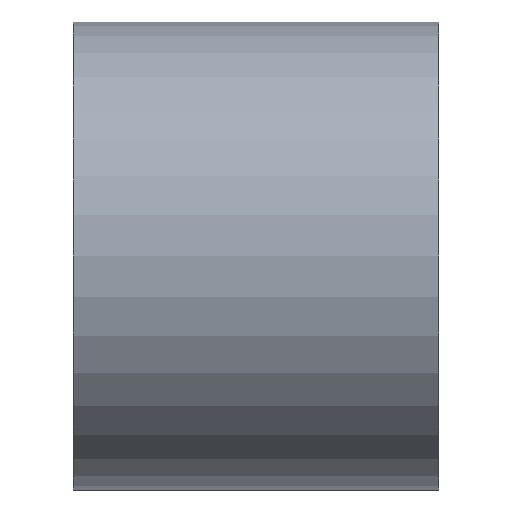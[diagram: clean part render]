
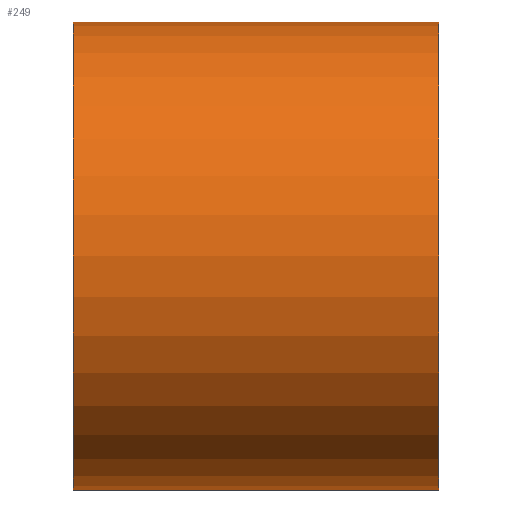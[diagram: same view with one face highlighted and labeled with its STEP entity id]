
A CAD part, front view. The second image highlights one B-rep face of the part: STEP entity #249.
In plain terms, the highlighted cylindrical face has radius 70.5 mm (diameter 141 mm), a partial arc.
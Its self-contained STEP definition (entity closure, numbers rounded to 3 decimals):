
#40 = ORIENTED_EDGE ( 'NONE', *, *, #288, .T. ) ;
#57 = VERTEX_POINT ( 'NONE', #769 ) ;
#172 = VERTEX_POINT ( 'NONE', #691 ) ;
#176 = ORIENTED_EDGE ( 'NONE', *, *, #195, .F. ) ;
#195 = EDGE_CURVE ( 'NONE', #289, #172, #890, .T. ) ;
#230 = EDGE_LOOP ( 'NONE', ( #176, #40, #1428, #1386 ) ) ;
#249 = ADVANCED_FACE ( 'NONE', ( #432 ), #433, .T. ) ;
#288 = EDGE_CURVE ( 'NONE', #289, #342, #617, .T. ) ;
#289 = VERTEX_POINT ( 'NONE', #624 ) ;
#342 = VERTEX_POINT ( 'NONE', #826 ) ;
#432 = FACE_OUTER_BOUND ( 'NONE', #230, .T. ) ;
#433 = CYLINDRICAL_SURFACE ( 'NONE', #434, 70.5 ) ;
#434 = AXIS2_PLACEMENT_3D ( 'NONE', #435, #436, #437 ) ;
#435 = CARTESIAN_POINT ( 'NONE',  ( 0., 0., 0. ) ) ;
#436 = DIRECTION ( 'NONE',  ( -1., 0., 0. ) ) ;
#437 = DIRECTION ( 'NONE',  ( 0., 0., 1. ) ) ;
#617 = CIRCLE ( 'NONE', #618, 70.5 ) ;
#618 = AXIS2_PLACEMENT_3D ( 'NONE', #619, #620, #621 ) ;
#619 = CARTESIAN_POINT ( 'NONE',  ( 110., 0., 0. ) ) ;
#620 = DIRECTION ( 'NONE',  ( -1., 0., 0. ) ) ;
#621 = DIRECTION ( 'NONE',  ( 0., 0., 1. ) ) ;
#624 = CARTESIAN_POINT ( 'NONE',  ( 110., 0., -70.5 ) ) ;
#637 = CIRCLE ( 'NONE', #638, 70.5 ) ;
#638 = AXIS2_PLACEMENT_3D ( 'NONE', #639, #643, #644 ) ;
#639 = CARTESIAN_POINT ( 'NONE',  ( 0., 0., 0. ) ) ;
#643 = DIRECTION ( 'NONE',  ( -1., 0., 0. ) ) ;
#644 = DIRECTION ( 'NONE',  ( 0., 0., 1. ) ) ;
#691 = CARTESIAN_POINT ( 'NONE',  ( 0., 0., -70.5 ) ) ;
#769 = CARTESIAN_POINT ( 'NONE',  ( 0., 0., 70.5 ) ) ;
#826 = CARTESIAN_POINT ( 'NONE',  ( 110., 0., 70.5 ) ) ;
#890 = LINE ( 'NONE', #891, #892 ) ;
#891 = CARTESIAN_POINT ( 'NONE',  ( 0., 0., -70.5 ) ) ;
#892 = VECTOR ( 'NONE', #893, 1000. ) ;
#893 = DIRECTION ( 'NONE',  ( -1., 0., 0. ) ) ;
#1026 = LINE ( 'NONE', #1027, #1028 ) ;
#1027 = CARTESIAN_POINT ( 'NONE',  ( 0., 0., 70.5 ) ) ;
#1028 = VECTOR ( 'NONE', #1029, 1000. ) ;
#1029 = DIRECTION ( 'NONE',  ( -1., 0., 0. ) ) ;
#1269 = EDGE_CURVE ( 'NONE', #172, #57, #637, .T. ) ;
#1386 = ORIENTED_EDGE ( 'NONE', *, *, #1269, .F. ) ;
#1411 = EDGE_CURVE ( 'NONE', #342, #57, #1026, .T. ) ;
#1428 = ORIENTED_EDGE ( 'NONE', *, *, #1411, .T. ) ;
